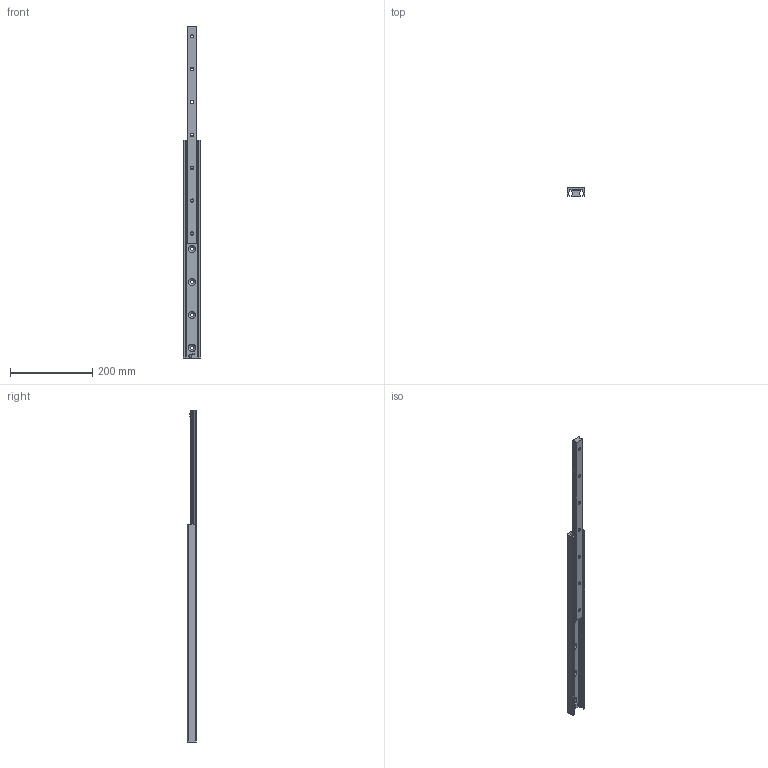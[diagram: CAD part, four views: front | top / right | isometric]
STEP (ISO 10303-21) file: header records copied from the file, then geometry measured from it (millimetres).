
FILE_DESCRIPTION(('STEP AP214'),'1');
FILE_NAME('rail_asn43-530_01.stp','2017-06-06T10:19:00',('TraceParts'),('TraceParts S.A.'),'Spatial InterOp 3D',' ',' ');
FILE_SCHEMA(('automotive_design'));
Length unit declared in the file: millimetre
Products named in the file (2): rail_asn43-530_01_1; rail_asn43-530_01_2
Bounding box: 43 x 22.01 x 808 mm (x, y, z)
Volume: 322693.9 mm3; surface area: 125814.5 mm2
Topology: 2 solids, 2 shells, 147 faces, 372 edges, 234 vertices
Faces by surface type: cylinder 59, plane 46, cone 42
Entity records: 4516 total; most frequent: DIRECTION 830, CARTESIAN_POINT 755, ORIENTED_EDGE 744, EDGE_CURVE 372, AXIS2_PLACEMENT_3D 309, VERTEX_POINT 234, LINE 212, VECTOR 212
